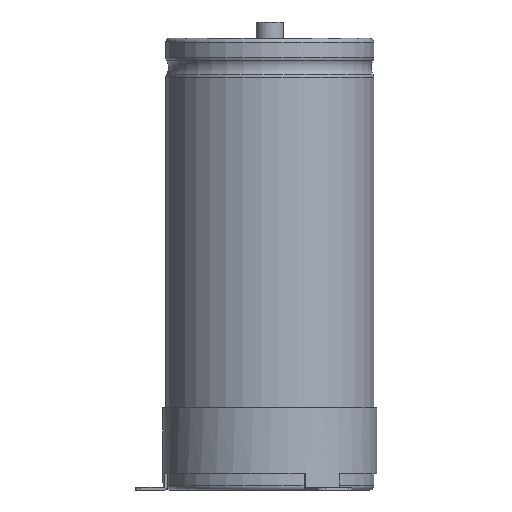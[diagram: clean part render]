
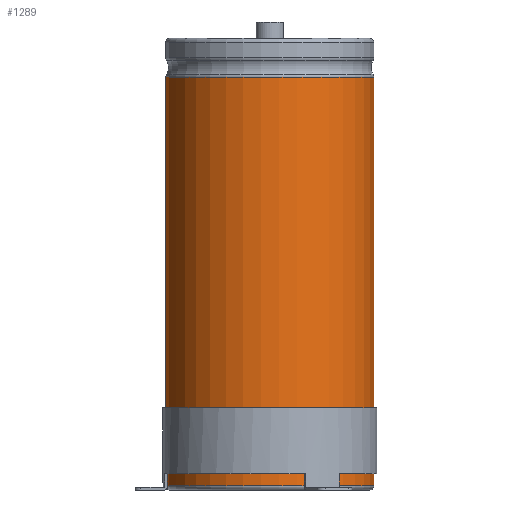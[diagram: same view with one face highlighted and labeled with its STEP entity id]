
A CAD part, front view. The second image highlights one B-rep face of the part: STEP entity #1289.
In plain terms, the highlighted cylindrical face has radius 38.1 mm (diameter 76.2 mm), a partial arc.
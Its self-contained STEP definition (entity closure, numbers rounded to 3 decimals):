
#233=LINE('',#6601,#447);
#234=LINE('',#6605,#448);
#447=VECTOR('',#5224,1.);
#448=VECTOR('',#5227,1.);
#695=FACE_OUTER_BOUND('',#1741,.T.);
#1289=ADVANCED_FACE('',(#695),#1519,.T.);
#1519=CYLINDRICAL_SURFACE('',#4585,38.1);
#1741=EDGE_LOOP('',(#2147,#2148,#2149,#2150));
#2147=ORIENTED_EDGE('',*,*,#3702,.T.);
#2148=ORIENTED_EDGE('',*,*,#3703,.T.);
#2149=ORIENTED_EDGE('',*,*,#3704,.F.);
#2150=ORIENTED_EDGE('',*,*,#3705,.F.);
#3274=VERTEX_POINT('',#6594);
#3276=VERTEX_POINT('',#6598);
#3277=VERTEX_POINT('',#6602);
#3278=VERTEX_POINT('',#6604);
#3702=EDGE_CURVE('',#3274,#3276,#4267,.T.);
#3703=EDGE_CURVE('',#3276,#3277,#233,.T.);
#3704=EDGE_CURVE('',#3278,#3277,#4268,.T.);
#3705=EDGE_CURVE('',#3274,#3278,#234,.T.);
#4267=CIRCLE('',#4582,38.1);
#4268=CIRCLE('',#4584,38.1);
#4582=AXIS2_PLACEMENT_3D('',#6599,#5220,#5221);
#4584=AXIS2_PLACEMENT_3D('',#6603,#5225,#5226);
#4585=AXIS2_PLACEMENT_3D('',#6606,#5228,#5229);
#5220=DIRECTION('',(0.,0.,-1.));
#5221=DIRECTION('',(0.,1.,0.));
#5224=DIRECTION('',(0.,0.,-1.));
#5225=DIRECTION('',(0.,0.,-1.));
#5226=DIRECTION('',(0.,1.,0.));
#5227=DIRECTION('',(0.,0.,-1.));
#5228=DIRECTION('',(0.,0.,-1.));
#5229=DIRECTION('',(0.,1.,0.));
#6594=CARTESIAN_POINT('',(3.983,37.891,150.9));
#6598=CARTESIAN_POINT('',(-3.983,37.891,150.9));
#6599=CARTESIAN_POINT('',(0.,0.,150.9));
#6601=CARTESIAN_POINT('',(-3.983,37.891,150.9));
#6602=CARTESIAN_POINT('',(-3.983,37.891,1.5));
#6603=CARTESIAN_POINT('',(0.,0.,1.5));
#6604=CARTESIAN_POINT('',(3.983,37.891,1.5));
#6605=CARTESIAN_POINT('',(3.983,37.891,150.9));
#6606=CARTESIAN_POINT('',(0.,0.,0.));
